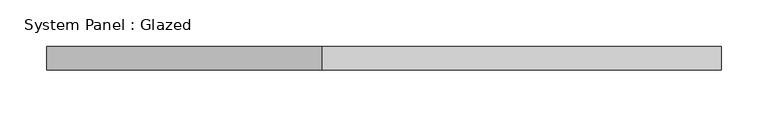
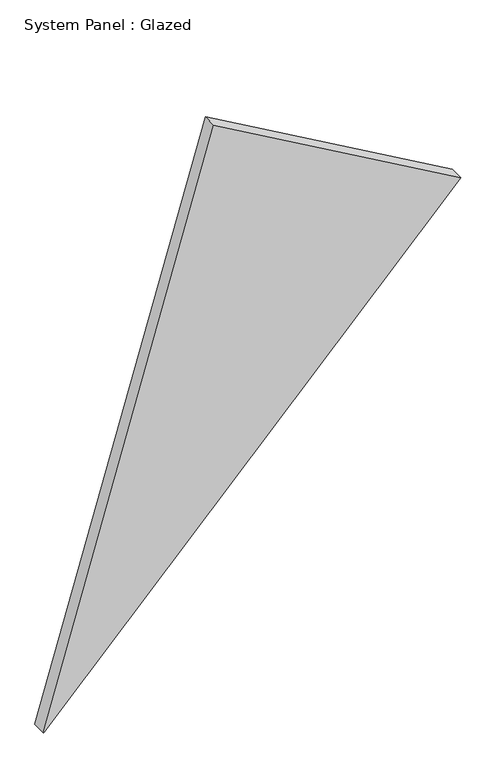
"""IFC4 building model written with IfcOpenShell, lengths in millimetres: plate geometry, System Panel : Glazed."""

from ifc_helpers import new_model, si_unit, frame, origin, place, context, project, spatial, polyline, outline, extrude, source, transform, mapped, element, save


def system_panel_glazed_72045049(model_context):
    return source(origin(), model_context, "Body", "SweptSolid", [
        extrude(outline(polyline([(0.5961677, -362.0101584), (0.0, -360.9717592), (764.5075493, 362.0101584), (1010.41649, -66.3117266), (0.5961677, -362.0101584)])), frame((0.0, -44.45, 0.0), z_axis=(0.0, 1.0, 0.0), x_axis=(0.0, 0.0, 1.0)), (0.0, 0.0, 1.0), 25.4),
    ])


if __name__ == "__main__":
    model = new_model("IFC4")
    model_context = context("Model", 3, world=origin())
    ifc_project = project(units=[si_unit("LENGTHUNIT", "METRE", prefix="MILLI")], contexts=[model_context])
    site = spatial("IfcSite", under=ifc_project)
    building = spatial("IfcBuilding", under=site)
    placement = place(None, origin())
    system_panel_glazed_shape = system_panel_glazed_72045049(model_context)
    element("IfcPlate", 1, ObjectType="System Panel : Glazed", at=placement, inside=building, context=model_context, shape_type="MappedRepresentation", body=[
        mapped(system_panel_glazed_shape, transform((0.0, 0.0, 0.0), x_axis=(1.0, 0.0, 0.0), y_axis=(0.0, 1.0, 0.0), z_axis=(0.0, 0.0, 1.0))),
    ])
    save(model, "model.ifc")
